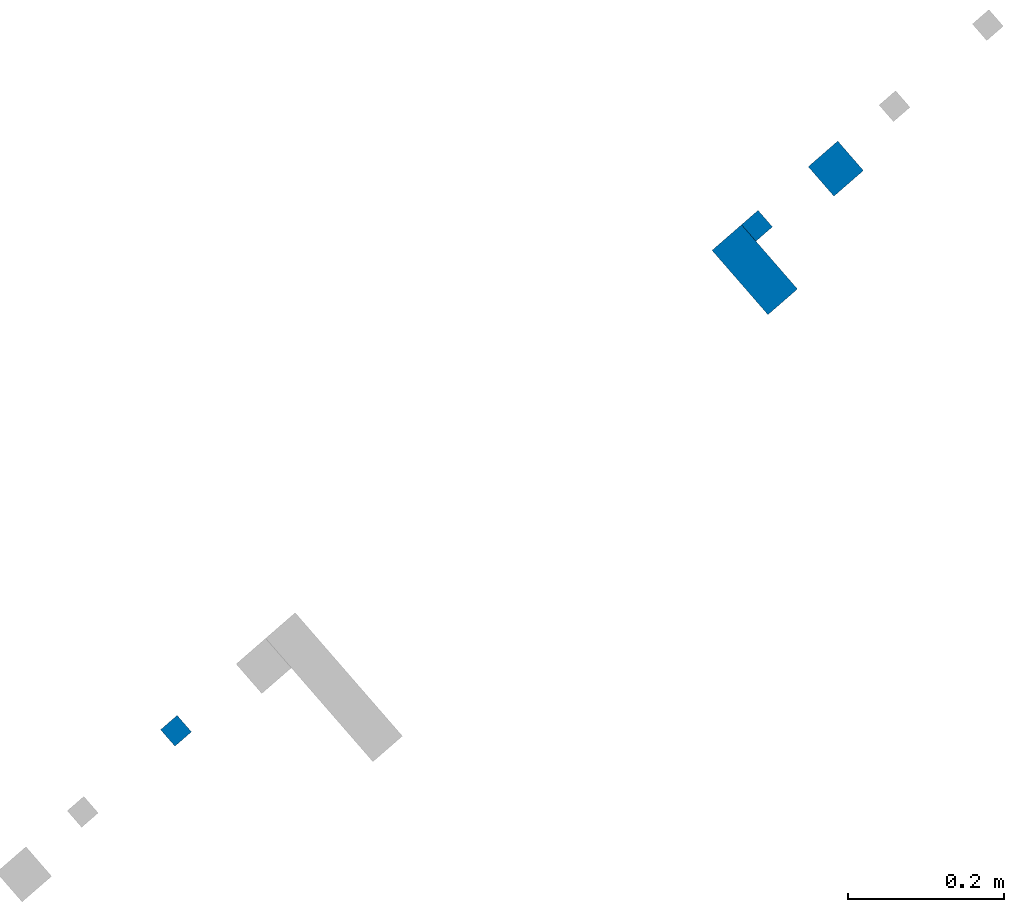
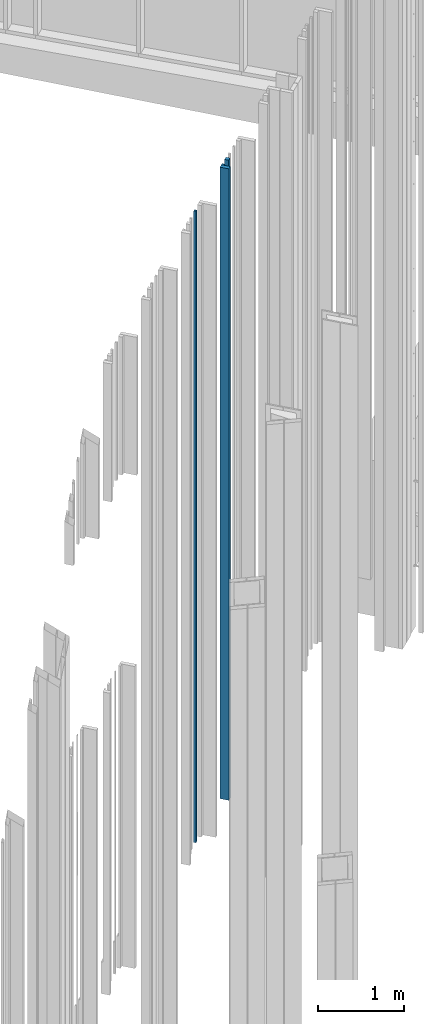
# One storey, part 264 of 390: 4 walls.
"""IFC2X3 building model written with IfcOpenShell, lengths in millimetres."""

from ifc_helpers import new_model, entity, si_unit, converted_unit, derived_unit, money_unit, direction, frame, origin_with_axes, place, context, subcontext, project, spatial, faceted_brep, material, type_object, element, save


model = new_model("IFC2X3")

# Units and contexts
model_context = context("Model", 3, precision=1e-05, world=origin_with_axes(), true_north=direction((0.0, 1.0)))
body_context = subcontext(model_context, "Body", "Model", "MODEL_VIEW")
ifc_project = project(units=[si_unit("LENGTHUNIT", "METRE", prefix="MILLI"), si_unit("AREAUNIT", "SQUARE_METRE"), si_unit("VOLUMEUNIT", "CUBIC_METRE"), converted_unit("PLANEANGLEUNIT", "DEGREE", entity("IfcPlaneAngleMeasure", 0.0174532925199), si_unit("PLANEANGLEUNIT", "RADIAN"), dimensions=[0, 0, 0, 0, 0, 0, 0]), si_unit("SOLIDANGLEUNIT", "STERADIAN"), money_unit("EUR"), converted_unit("TIMEUNIT", "Year", entity("IfcTimeMeasure", 31556926.0), si_unit("TIMEUNIT", "SECOND"), dimensions=[0, 0, 1, 0, 0, 0, 0]), si_unit("MASSUNIT", "GRAM", prefix="KILO"), si_unit("THERMODYNAMICTEMPERATUREUNIT", "DEGREE_CELSIUS"), si_unit("LUMINOUSINTENSITYUNIT", "LUMEN"), si_unit("ENERGYUNIT", "JOULE", prefix="MEGA"), derived_unit("THERMALCONDUCTANCEUNIT", [(si_unit("POWERUNIT", "WATT"), 1), (si_unit("LENGTHUNIT", "METRE"), -1), (si_unit("THERMODYNAMICTEMPERATUREUNIT", "KELVIN"), -1)]), derived_unit("SPECIFICHEATCAPACITYUNIT", [(si_unit("ENERGYUNIT", "JOULE"), 1), (si_unit("MASSUNIT", "GRAM", prefix="KILO"), -1), (si_unit("THERMODYNAMICTEMPERATUREUNIT", "KELVIN"), -1)]), derived_unit("MASSDENSITYUNIT", [(si_unit("MASSUNIT", "GRAM", prefix="KILO"), 1), (si_unit("VOLUMEUNIT", "CUBIC_METRE"), -1)])], contexts=[model_context])

# Site, building, storey
site_placement = place(None, origin_with_axes())
site = spatial("IfcSite", under=ifc_project, at=site_placement, Name="Site", CompositionType="ELEMENT")
building_placement = place(site_placement, origin_with_axes())
building = spatial("IfcBuilding", under=site, at=building_placement, Name="Building", CompositionType="ELEMENT")
storey_placement = place(building_placement, origin_with_axes())
storey = spatial("IfcBuildingStorey", under=building, at=storey_placement, Name="1 korrus", CompositionType="ELEMENT", Elevation=0.0)

# Walls
ifc_material = material(Name="Site specified")
wall_type = type_object("IfcWallType", Name="Puitfassaadi ribistik", PredefinedType="NOTDEFINED")
wall_1_placement = place(storey_placement, frame((168140.103465, 90792.5786926, 935.0), z_axis=(0.0, 0.0, 1.0), x_axis=(-0.754709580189, -0.65605902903, 0.0)))
element("IfcWall", 1, at=wall_1_placement, inside=storey, type_object=wall_type, material=ifc_material, Name="Site specified", context=body_context, shape_type="Brep", body=[
    faceted_brep([(-25.0, -25.0, 8930.0), (-25.0, -25.0, 0.0), (25.0, -25.0, 0.0), (25.0, -25.0, 8930.0), (-25.0, 25.0, 8930.0), (-25.0, 25.0, 0.0), (25.0, 25.0, 0.0), (25.0, 25.0, 8930.0)], [[[0, 1, 2, 3]], [[4, 5, 1, 0]], [[2, 1, 5, 6]], [[3, 2, 6, 7]], [[4, 0, 3, 7]], [[7, 6, 5, 4]]]),
])
wall_2_placement = place(storey_placement, frame((167296.6686, 90073.9670938, 935.0), z_axis=(0.0, 0.0, 1.0), x_axis=(-0.754709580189, -0.65605902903, 0.0)))
element("IfcWall", 2, at=wall_2_placement, inside=storey, type_object=wall_type, material=ifc_material, Name="Site specified", context=body_context, shape_type="Brep", body=[
    faceted_brep([(-14.0, -14.0, 8930.0), (-14.0, -14.0, 0.0), (14.0, -14.0, 0.0), (14.0, -14.0, 8930.0), (-14.0, 14.0, 8930.0), (-14.0, 14.0, 0.0), (14.0, 14.0, 0.0), (14.0, 14.0, 8930.0)], [[[0, 1, 2, 3]], [[4, 5, 1, 0]], [[2, 1, 5, 6]], [[3, 2, 6, 7]], [[4, 0, 3, 7]], [[7, 6, 5, 4]]]),
])
wall_3_placement = place(storey_placement, frame((168036.439544, 90663.3771382, 935.0), z_axis=(0.0, 0.0, 1.0), x_axis=(-0.754709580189, -0.65605902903, 0.0)))
element("IfcWall", 3, at=wall_3_placement, inside=storey, type_object=wall_type, material=ifc_material, Name="Site specified", context=body_context, shape_type="Brep", body=[
    faceted_brep([(-25.0, -54.5, 8930.0), (-25.0, -54.5, 0.0), (25.0, -54.5, 0.0), (25.0, -54.5, 8930.0), (-25.0, 54.5, 8930.0), (-25.0, 54.5, 0.0), (25.0, 54.5, 0.0), (25.0, 54.5, 8930.0)], [[[0, 1, 2, 3]], [[4, 5, 1, 0]], [[2, 1, 5, 6]], [[3, 2, 6, 7]], [[4, 0, 3, 7]], [[7, 6, 5, 4]]]),
])
wall_4_placement = place(storey_placement, frame((168039.302827, 90719.5291783, 935.0), z_axis=(0.0, 0.0, 1.0), x_axis=(-0.754709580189, -0.65605902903, 0.0)))
element("IfcWall", 4, at=wall_4_placement, inside=storey, type_object=wall_type, material=ifc_material, Name="Site specified", context=body_context, shape_type="Brep", body=[
    faceted_brep([(-14.0, -14.0, 8930.0), (-14.0, -14.0, 0.0), (14.0, -14.0, 0.0), (14.0, -14.0, 8930.0), (-14.0, 14.0, 8930.0), (-14.0, 14.0, 0.0), (14.0, 14.0, 0.0), (14.0, 14.0, 8930.0)], [[[0, 1, 2, 3]], [[4, 5, 1, 0]], [[2, 1, 5, 6]], [[3, 2, 6, 7]], [[4, 0, 3, 7]], [[7, 6, 5, 4]]]),
])

save(model, "model.ifc")
